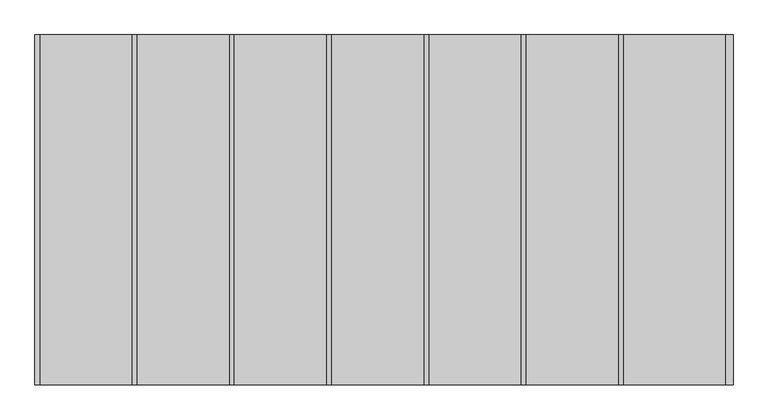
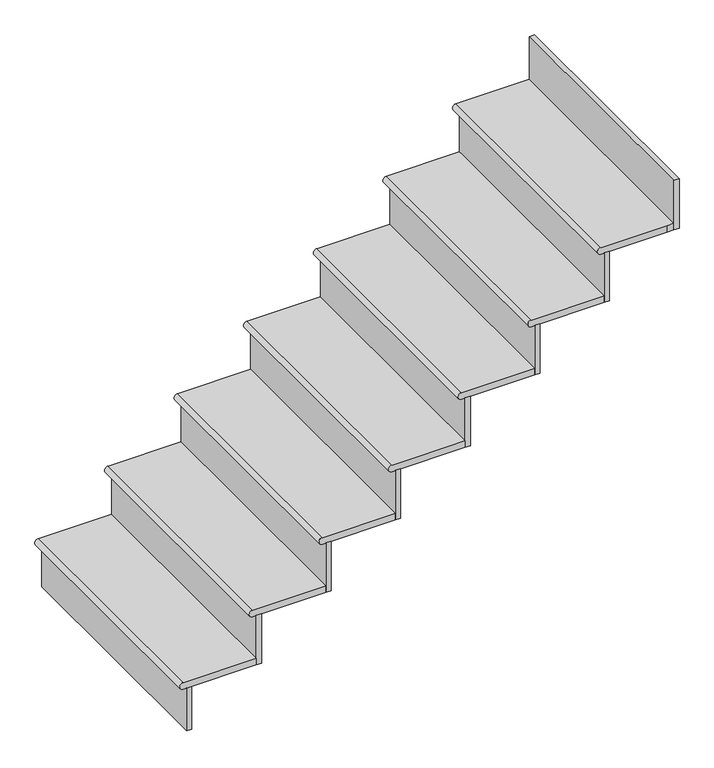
"""IFC4 building model written with IfcOpenShell, lengths in millimetres: stair flight geometry."""

from ifc_helpers import new_model, si_unit, frame, origin, place, context, project, spatial, circle_curve, faceted_brep, source, transform, mapped, element, save
from ifc_brep_helpers import plane_surface, cylinder_surface, advanced_brep


def stair_flight_c2164267(model_context):
    return source(origin(), model_context, "Body", "SolidModel", [
        advanced_brep(
        [(-17769.3481446, 7003.9128094, 165.1), (-17769.3481446, 7003.9128094, 190.5), (-17769.3481446, 7918.3128094, 190.5), (-17769.3481446, 7918.3128094, 165.1), (-17502.6481446, 7918.3128094, 190.5), (-17502.6481446, 7003.9128094, 190.5), (-17502.6481446, 7918.3128094, 165.1), (-17502.6481446, 7003.9128094, 165.1)],
        [
            (0, 1, circle_curve(frame((-17769.3481446, 7003.9128094, 177.8), z_axis=(0.0, 1.0, 0.0), x_axis=(1.0, 0.0, 0.0)), 12.7)),
            (1, 2),
            (2, 3, circle_curve(frame((-17769.3481446, 7918.3128094, 177.8), z_axis=(0.0, -1.0, 0.0), x_axis=(1.0, 0.0, 0.0)), 12.7)),
            (3, 0),
            (4, 2),
            (1, 5),
            (5, 4),
            (3, 6),
            (6, 7),
            (7, 0),
            (4, 6),
            (7, 5),
        ],
        [
            cylinder_surface(frame((-17769.3481446, 7003.9128094, 177.8), z_axis=(0.0, -1.0, 0.0), x_axis=(1.0, 0.0, 0.0)), 12.7),
            plane_surface(frame((-17782.0481446, 7918.3128094, 190.5), z_axis=(0.0, 0.0, 1.0), x_axis=(-1.0, 0.0, 0.0))),
            plane_surface(frame((-17782.0481446, 7918.3128094, 165.1), z_axis=(0.0, 0.0, -1.0), x_axis=(1.0, 0.0, 0.0))),
            plane_surface(frame((-17502.6481446, 7918.3128094, 190.5), z_axis=(0.0, 1.0, 0.0), x_axis=(0.0, 0.0, -1.0))),
            plane_surface(frame((-17769.3481446, 7003.9128094, 190.5), z_axis=(0.0, -1.0, 0.0), x_axis=(0.0, 0.0, -1.0))),
            plane_surface(frame((-17502.6481446, 7003.9128094, 190.5), z_axis=(1.0, 0.0, 0.0), x_axis=(0.0, 0.0, -1.0))),
        ],
        [
            (0, [[1, 2, 3, 4]]),
            (1, [[5, -2, 6, 7]]),
            (2, [[8, 9, 10, -4]]),
            (3, [[-5, 11, -8, -3]]),
            (4, [[-6, -1, -10, 12]]),
            (5, [[-7, -12, -9, -11]]),
        ],
    ),
        faceted_brep([(-17756.6481446, 7003.9128094, 165.1), (-17756.6481446, 7003.9128094, 0.0), (-17737.5981446, 7003.9128094, 0.0), (-17737.5981446, 7003.9128094, 165.1), (-17756.6481446, 7918.3128094, 165.1), (-17737.5981446, 7918.3128094, 165.1), (-17737.5981446, 7918.3128094, 0.0), (-17756.6481446, 7918.3128094, 0.0)], [[[0, 1, 2, 3]], [[4, 5, 6, 7]], [[1, 0, 4, 7]], [[2, 1, 7, 6]], [[3, 2, 6, 5]], [[0, 3, 5, 4]]]),
        faceted_brep([(-17502.6481446, 7003.9128094, 355.6), (-17502.6481446, 7003.9128094, 165.1), (-17483.5981446, 7003.9128094, 165.1), (-17483.5981446, 7003.9128094, 355.6), (-17502.6481446, 7918.3128094, 355.6), (-17483.5981446, 7918.3128094, 355.6), (-17483.5981446, 7918.3128094, 165.1), (-17502.6481446, 7918.3128094, 165.1)], [[[0, 1, 2, 3]], [[4, 5, 6, 7]], [[1, 0, 4, 7]], [[2, 1, 7, 6]], [[3, 2, 6, 5]], [[0, 3, 5, 4]]]),
        advanced_brep(
        [(-17248.6481446, 7918.3128094, 381.0), (-17515.3481446, 7918.3128094, 381.0), (-17515.3481446, 7003.9128094, 381.0), (-17248.6481446, 7003.9128094, 381.0), (-17515.3481446, 7918.3128094, 355.6), (-17248.6481446, 7918.3128094, 355.6), (-17248.6481446, 7003.9128094, 355.6), (-17515.3481446, 7003.9128094, 355.6)],
        [
            (0, 1),
            (1, 2),
            (2, 3),
            (3, 0),
            (4, 5),
            (5, 6),
            (6, 7),
            (7, 4),
            (0, 5),
            (4, 1, circle_curve(frame((-17515.3481446, 7918.3128094, 368.3), z_axis=(0.0, 1.0, 0.0), x_axis=(1.0, 0.0, 0.0)), 12.7)),
            (2, 7, circle_curve(frame((-17515.3481446, 7003.9128094, 368.3), z_axis=(0.0, -1.0, 0.0), x_axis=(1.0, 0.0, 0.0)), 12.7)),
            (6, 3),
        ],
        [
            plane_surface(frame((-17782.0481446, 7918.3128094, 381.0), z_axis=(0.0, 0.0, 1.0), x_axis=(-1.0, 0.0, 0.0))),
            plane_surface(frame((-17782.0481446, 7918.3128094, 355.6), z_axis=(0.0, 0.0, -1.0), x_axis=(1.0, 0.0, 0.0))),
            plane_surface(frame((-17248.6481446, 7918.3128094, 381.0), z_axis=(0.0, 1.0, 0.0), x_axis=(0.0, 0.0, -1.0))),
            plane_surface(frame((-17515.3481446, 7003.9128094, 381.0), z_axis=(0.0, -1.0, 0.0), x_axis=(0.0, 0.0, -1.0))),
            plane_surface(frame((-17248.6481446, 7003.9128094, 381.0), z_axis=(1.0, 0.0, 0.0), x_axis=(0.0, 0.0, -1.0))),
            cylinder_surface(frame((-17515.3481446, 7003.9128094, 368.3), z_axis=(0.0, -1.0, 0.0), x_axis=(1.0, 0.0, 0.0)), 12.7),
        ],
        [
            (0, [[1, 2, 3, 4]]),
            (1, [[5, 6, 7, 8]]),
            (2, [[-1, 9, -5, 10]]),
            (3, [[-3, 11, -7, 12]]),
            (4, [[-4, -12, -6, -9]]),
            (5, [[-11, -2, -10, -8]]),
        ],
    ),
        faceted_brep([(-17248.6481446, 7003.9128094, 546.1), (-17248.6481446, 7003.9128094, 355.6), (-17229.5981446, 7003.9128094, 355.6), (-17229.5981446, 7003.9128094, 546.1), (-17248.6481446, 7918.3128094, 546.1), (-17229.5981446, 7918.3128094, 546.1), (-17229.5981446, 7918.3128094, 355.6), (-17248.6481446, 7918.3128094, 355.6)], [[[0, 1, 2, 3]], [[4, 5, 6, 7]], [[1, 0, 4, 7]], [[2, 1, 7, 6]], [[3, 2, 6, 5]], [[0, 3, 5, 4]]]),
        advanced_brep(
        [(-16994.6481446, 7918.3128094, 571.5), (-17261.3481446, 7918.3128094, 571.5), (-17261.3481446, 7003.9128094, 571.5), (-16994.6481446, 7003.9128094, 571.5), (-17261.3481446, 7918.3128094, 546.1), (-16994.6481446, 7918.3128094, 546.1), (-16994.6481446, 7003.9128094, 546.1), (-17261.3481446, 7003.9128094, 546.1)],
        [
            (0, 1),
            (1, 2),
            (2, 3),
            (3, 0),
            (4, 5),
            (5, 6),
            (6, 7),
            (7, 4),
            (0, 5),
            (4, 1, circle_curve(frame((-17261.3481446, 7918.3128094, 558.8), z_axis=(0.0, 1.0, 0.0), x_axis=(1.0, 0.0, 0.0)), 12.7)),
            (2, 7, circle_curve(frame((-17261.3481446, 7003.9128094, 558.8), z_axis=(0.0, -1.0, 0.0), x_axis=(1.0, 0.0, 0.0)), 12.7)),
            (6, 3),
        ],
        [
            plane_surface(frame((-17528.0481446, 7918.3128094, 571.5), z_axis=(0.0, 0.0, 1.0), x_axis=(-1.0, 0.0, 0.0))),
            plane_surface(frame((-17528.0481446, 7918.3128094, 546.1), z_axis=(0.0, 0.0, -1.0), x_axis=(1.0, 0.0, 0.0))),
            plane_surface(frame((-16994.6481446, 7918.3128094, 571.5), z_axis=(0.0, 1.0, 0.0), x_axis=(0.0, 0.0, -1.0))),
            plane_surface(frame((-17261.3481446, 7003.9128094, 571.5), z_axis=(0.0, -1.0, 0.0), x_axis=(0.0, 0.0, -1.0))),
            plane_surface(frame((-16994.6481446, 7003.9128094, 571.5), z_axis=(1.0, 0.0, 0.0), x_axis=(0.0, 0.0, -1.0))),
            cylinder_surface(frame((-17261.3481446, 7003.9128094, 558.8), z_axis=(0.0, -1.0, 0.0), x_axis=(1.0, 0.0, 0.0)), 12.7),
        ],
        [
            (0, [[1, 2, 3, 4]]),
            (1, [[5, 6, 7, 8]]),
            (2, [[-1, 9, -5, 10]]),
            (3, [[-3, 11, -7, 12]]),
            (4, [[-4, -12, -6, -9]]),
            (5, [[-11, -2, -10, -8]]),
        ],
    ),
        faceted_brep([(-16994.6481446, 7003.9128094, 736.6), (-16994.6481446, 7003.9128094, 546.1), (-16975.5981446, 7003.9128094, 546.1), (-16975.5981446, 7003.9128094, 736.6), (-16994.6481446, 7918.3128094, 736.6), (-16975.5981446, 7918.3128094, 736.6), (-16975.5981446, 7918.3128094, 546.1), (-16994.6481446, 7918.3128094, 546.1)], [[[0, 1, 2, 3]], [[4, 5, 6, 7]], [[1, 0, 4, 7]], [[2, 1, 7, 6]], [[3, 2, 6, 5]], [[0, 3, 5, 4]]]),
        advanced_brep(
        [(-16740.6481446, 7918.3128094, 762.0), (-17007.3481446, 7918.3128094, 762.0), (-17007.3481446, 7003.9128094, 762.0), (-16740.6481446, 7003.9128094, 762.0), (-17007.3481446, 7918.3128094, 736.6), (-16740.6481446, 7918.3128094, 736.6), (-16740.6481446, 7003.9128094, 736.6), (-17007.3481446, 7003.9128094, 736.6)],
        [
            (0, 1),
            (1, 2),
            (2, 3),
            (3, 0),
            (4, 5),
            (5, 6),
            (6, 7),
            (7, 4),
            (0, 5),
            (4, 1, circle_curve(frame((-17007.3481446, 7918.3128094, 749.3), z_axis=(0.0, 1.0, 0.0), x_axis=(1.0, 0.0, 0.0)), 12.7)),
            (2, 7, circle_curve(frame((-17007.3481446, 7003.9128094, 749.3), z_axis=(0.0, -1.0, 0.0), x_axis=(1.0, 0.0, 0.0)), 12.7)),
            (6, 3),
        ],
        [
            plane_surface(frame((-17274.0481446, 7918.3128094, 762.0), z_axis=(0.0, 0.0, 1.0), x_axis=(-1.0, 0.0, 0.0))),
            plane_surface(frame((-17274.0481446, 7918.3128094, 736.6), z_axis=(0.0, 0.0, -1.0), x_axis=(1.0, 0.0, 0.0))),
            plane_surface(frame((-16740.6481446, 7918.3128094, 762.0), z_axis=(0.0, 1.0, 0.0), x_axis=(0.0, 0.0, -1.0))),
            plane_surface(frame((-17007.3481446, 7003.9128094, 762.0), z_axis=(0.0, -1.0, 0.0), x_axis=(0.0, 0.0, -1.0))),
            plane_surface(frame((-16740.6481446, 7003.9128094, 762.0), z_axis=(1.0, 0.0, 0.0), x_axis=(0.0, 0.0, -1.0))),
            cylinder_surface(frame((-17007.3481446, 7003.9128094, 749.3), z_axis=(0.0, -1.0, 0.0), x_axis=(1.0, 0.0, 0.0)), 12.7),
        ],
        [
            (0, [[1, 2, 3, 4]]),
            (1, [[5, 6, 7, 8]]),
            (2, [[-1, 9, -5, 10]]),
            (3, [[-3, 11, -7, 12]]),
            (4, [[-4, -12, -6, -9]]),
            (5, [[-11, -2, -10, -8]]),
        ],
    ),
        faceted_brep([(-16740.6481446, 7003.9128094, 927.1), (-16740.6481446, 7003.9128094, 736.6), (-16721.5981446, 7003.9128094, 736.6), (-16721.5981446, 7003.9128094, 927.1), (-16740.6481446, 7918.3128094, 927.1), (-16721.5981446, 7918.3128094, 927.1), (-16721.5981446, 7918.3128094, 736.6), (-16740.6481446, 7918.3128094, 736.6)], [[[0, 1, 2, 3]], [[4, 5, 6, 7]], [[1, 0, 4, 7]], [[2, 1, 7, 6]], [[3, 2, 6, 5]], [[0, 3, 5, 4]]]),
        advanced_brep(
        [(-16486.6481446, 7918.3128094, 952.5), (-16753.3481446, 7918.3128094, 952.5), (-16753.3481446, 7003.9128094, 952.5), (-16486.6481446, 7003.9128094, 952.5), (-16753.3481446, 7918.3128094, 927.1), (-16486.6481446, 7918.3128094, 927.1), (-16486.6481446, 7003.9128094, 927.1), (-16753.3481446, 7003.9128094, 927.1)],
        [
            (0, 1),
            (1, 2),
            (2, 3),
            (3, 0),
            (4, 5),
            (5, 6),
            (6, 7),
            (7, 4),
            (0, 5),
            (4, 1, circle_curve(frame((-16753.3481446, 7918.3128094, 939.8), z_axis=(0.0, 1.0, 0.0), x_axis=(1.0, 0.0, 0.0)), 12.7)),
            (2, 7, circle_curve(frame((-16753.3481446, 7003.9128094, 939.8), z_axis=(0.0, -1.0, 0.0), x_axis=(1.0, 0.0, 0.0)), 12.7)),
            (6, 3),
        ],
        [
            plane_surface(frame((-17020.0481446, 7918.3128094, 952.5), z_axis=(0.0, 0.0, 1.0), x_axis=(-1.0, 0.0, 0.0))),
            plane_surface(frame((-17020.0481446, 7918.3128094, 927.1), z_axis=(0.0, 0.0, -1.0), x_axis=(1.0, 0.0, 0.0))),
            plane_surface(frame((-16486.6481446, 7918.3128094, 952.5), z_axis=(0.0, 1.0, 0.0), x_axis=(0.0, 0.0, -1.0))),
            plane_surface(frame((-16753.3481446, 7003.9128094, 952.5), z_axis=(0.0, -1.0, 0.0), x_axis=(0.0, 0.0, -1.0))),
            plane_surface(frame((-16486.6481446, 7003.9128094, 952.5), z_axis=(1.0, 0.0, 0.0), x_axis=(0.0, 0.0, -1.0))),
            cylinder_surface(frame((-16753.3481446, 7003.9128094, 939.8), z_axis=(0.0, -1.0, 0.0), x_axis=(1.0, 0.0, 0.0)), 12.7),
        ],
        [
            (0, [[1, 2, 3, 4]]),
            (1, [[5, 6, 7, 8]]),
            (2, [[-1, 9, -5, 10]]),
            (3, [[-3, 11, -7, 12]]),
            (4, [[-4, -12, -6, -9]]),
            (5, [[-11, -2, -10, -8]]),
        ],
    ),
        faceted_brep([(-16486.6481446, 7003.9128094, 1117.6), (-16486.6481446, 7003.9128094, 927.1), (-16467.5981446, 7003.9128094, 927.1), (-16467.5981446, 7003.9128094, 1117.6), (-16486.6481446, 7918.3128094, 1117.6), (-16467.5981446, 7918.3128094, 1117.6), (-16467.5981446, 7918.3128094, 927.1), (-16486.6481446, 7918.3128094, 927.1)], [[[0, 1, 2, 3]], [[4, 5, 6, 7]], [[1, 0, 4, 7]], [[2, 1, 7, 6]], [[3, 2, 6, 5]], [[0, 3, 5, 4]]]),
        advanced_brep(
        [(-16232.6481446, 7918.3128094, 1143.0), (-16499.3481446, 7918.3128094, 1143.0), (-16499.3481446, 7003.9128094, 1143.0), (-16232.6481446, 7003.9128094, 1143.0), (-16499.3481446, 7918.3128094, 1117.6), (-16232.6481446, 7918.3128094, 1117.6), (-16232.6481446, 7003.9128094, 1117.6), (-16499.3481446, 7003.9128094, 1117.6)],
        [
            (0, 1),
            (1, 2),
            (2, 3),
            (3, 0),
            (4, 5),
            (5, 6),
            (6, 7),
            (7, 4),
            (0, 5),
            (4, 1, circle_curve(frame((-16499.3481446, 7918.3128094, 1130.3), z_axis=(0.0, 1.0, 0.0), x_axis=(1.0, 0.0, 0.0)), 12.7)),
            (2, 7, circle_curve(frame((-16499.3481446, 7003.9128094, 1130.3), z_axis=(0.0, -1.0, 0.0), x_axis=(1.0, 0.0, 0.0)), 12.7)),
            (6, 3),
        ],
        [
            plane_surface(frame((-16766.0481446, 7918.3128094, 1143.0), z_axis=(0.0, 0.0, 1.0), x_axis=(-1.0, 0.0, 0.0))),
            plane_surface(frame((-16766.0481446, 7918.3128094, 1117.6), z_axis=(0.0, 0.0, -1.0), x_axis=(1.0, 0.0, 0.0))),
            plane_surface(frame((-16232.6481446, 7918.3128094, 1143.0), z_axis=(0.0, 1.0, 0.0), x_axis=(0.0, 0.0, -1.0))),
            plane_surface(frame((-16499.3481446, 7003.9128094, 1143.0), z_axis=(0.0, -1.0, 0.0), x_axis=(0.0, 0.0, -1.0))),
            plane_surface(frame((-16232.6481446, 7003.9128094, 1143.0), z_axis=(1.0, 0.0, 0.0), x_axis=(0.0, 0.0, -1.0))),
            cylinder_surface(frame((-16499.3481446, 7003.9128094, 1130.3), z_axis=(0.0, -1.0, 0.0), x_axis=(1.0, 0.0, 0.0)), 12.7),
        ],
        [
            (0, [[1, 2, 3, 4]]),
            (1, [[5, 6, 7, 8]]),
            (2, [[-1, 9, -5, 10]]),
            (3, [[-3, 11, -7, 12]]),
            (4, [[-4, -12, -6, -9]]),
            (5, [[-11, -2, -10, -8]]),
        ],
    ),
        faceted_brep([(-15978.6481446, 7003.9128094, 1498.6), (-15978.6481446, 7003.9128094, 1308.1), (-15959.5981446, 7003.9128094, 1308.1), (-15959.5981446, 7003.9128094, 1498.6), (-15978.6481446, 7918.3128094, 1498.6), (-15959.5981446, 7918.3128094, 1498.6), (-15959.5981446, 7918.3128094, 1308.1), (-15978.6481446, 7918.3128094, 1308.1)], [[[0, 1, 2, 3]], [[4, 5, 6, 7]], [[1, 0, 4, 7]], [[2, 1, 7, 6]], [[3, 2, 6, 5]], [[0, 3, 5, 4]]]),
        faceted_brep([(-16232.6481446, 7003.9128094, 1308.1), (-16232.6481446, 7003.9128094, 1117.6), (-16213.5981446, 7003.9128094, 1117.6), (-16213.5981446, 7003.9128094, 1308.1), (-16232.6481446, 7918.3128094, 1308.1), (-16213.5981446, 7918.3128094, 1308.1), (-16213.5981446, 7918.3128094, 1117.6), (-16232.6481446, 7918.3128094, 1117.6)], [[[0, 1, 2, 3]], [[4, 5, 6, 7]], [[1, 0, 4, 7]], [[2, 1, 7, 6]], [[3, 2, 6, 5]], [[0, 3, 5, 4]]]),
        advanced_brep(
        [(-15978.6481446, 7918.3128094, 1333.5), (-16245.3481446, 7918.3128094, 1333.5), (-16245.3481446, 7003.9128094, 1333.5), (-16004.0481446, 7003.9128094, 1333.5), (-15978.6481446, 7003.9128094, 1333.5), (-16245.3481446, 7918.3128094, 1308.1), (-15978.6481446, 7918.3128094, 1308.1), (-15978.6481446, 7003.9128094, 1308.1), (-16004.0481446, 7003.9128094, 1308.1), (-16245.3481446, 7003.9128094, 1308.1)],
        [
            (0, 1),
            (1, 2),
            (2, 3),
            (3, 4),
            (4, 0),
            (5, 6),
            (6, 7),
            (7, 8),
            (8, 9),
            (9, 5),
            (0, 6),
            (5, 1, circle_curve(frame((-16245.3481446, 7918.3128094, 1320.8), z_axis=(0.0, 1.0, 0.0), x_axis=(1.0, 0.0, 0.0)), 12.7)),
            (2, 9, circle_curve(frame((-16245.3481446, 7003.9128094, 1320.8), z_axis=(0.0, -1.0, 0.0), x_axis=(1.0, 0.0, 0.0)), 12.7)),
            (8, 3),
            (7, 4),
        ],
        [
            plane_surface(frame((-17782.0481446, 7918.3128094, 1333.5), z_axis=(0.0, 0.0, 1.0), x_axis=(-1.0, 0.0, 0.0))),
            plane_surface(frame((-17782.0481446, 7918.3128094, 1308.1), z_axis=(0.0, 0.0, -1.0), x_axis=(1.0, 0.0, 0.0))),
            plane_surface(frame((-15978.6481446, 7918.3128094, 1333.5), z_axis=(0.0, 1.0, 0.0), x_axis=(0.0, 0.0, -1.0))),
            plane_surface(frame((-16245.3481446, 7003.9128094, 1333.5), z_axis=(0.0, -1.0, 0.0), x_axis=(0.0, 0.0, -1.0))),
            plane_surface(frame((-16004.0481446, 7003.9128094, 1333.5), z_axis=(0.0, -1.0, 0.0), x_axis=(0.0, 0.0, -1.0))),
            plane_surface(frame((-15978.6481446, 7003.9128094, 1333.5), z_axis=(1.0, 0.0, 0.0), x_axis=(0.0, 0.0, -1.0))),
            cylinder_surface(frame((-16245.3481446, 7003.9128094, 1320.8), z_axis=(0.0, -1.0, 0.0), x_axis=(1.0, 0.0, 0.0)), 12.7),
        ],
        [
            (0, [[1, 2, 3, 4, 5]]),
            (1, [[6, 7, 8, 9, 10]]),
            (2, [[-1, 11, -6, 12]]),
            (3, [[-3, 13, -9, 14]]),
            (4, [[-4, -14, -8, 15]]),
            (5, [[-5, -15, -7, -11]]),
            (6, [[-13, -2, -12, -10]]),
        ],
    ),
    ])


if __name__ == "__main__":
    model = new_model("IFC4")
    model_context = context("Model", 3, world=origin())
    ifc_project = project(units=[si_unit("LENGTHUNIT", "METRE", prefix="MILLI")], contexts=[model_context])
    site = spatial("IfcSite", under=ifc_project)
    building = spatial("IfcBuilding", under=site)
    placement = place(None, origin())
    stair_flight_shape = stair_flight_c2164267(model_context)
    element("IfcStairFlight", 1, ObjectType="Unassigned Steps with 1\" Tread 1\" Nosing 3/4\" Riser", at=placement, inside=building, context=model_context, shape_type="MappedRepresentation", body=[
        mapped(stair_flight_shape, transform((0.0, 0.0, 0.0), x_axis=(1.0, 0.0, 0.0), y_axis=(0.0, 1.0, 0.0), z_axis=(0.0, 0.0, 1.0))),
    ])
    save(model, "model.ifc")
